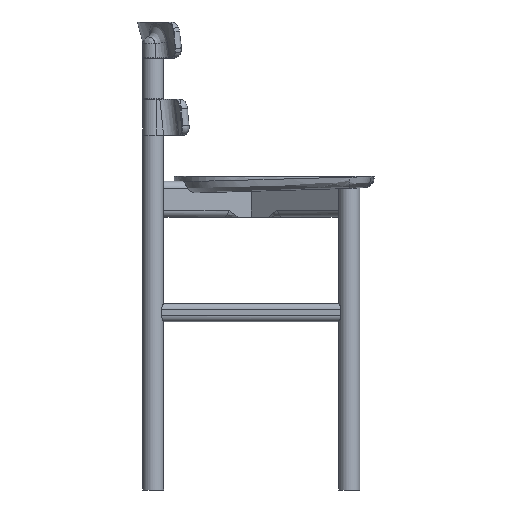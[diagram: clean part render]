
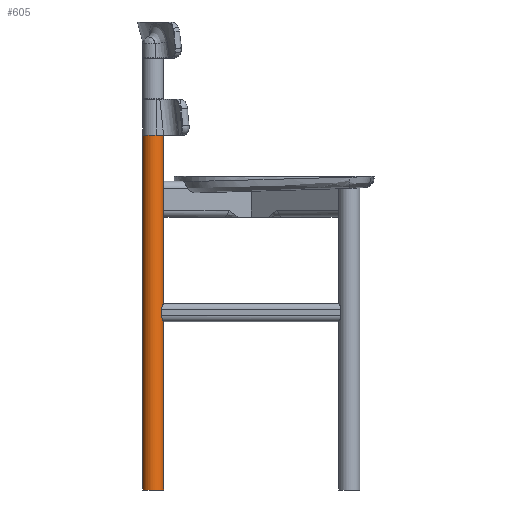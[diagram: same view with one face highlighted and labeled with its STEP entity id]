
A CAD part, left-side view. The second image highlights one B-rep face of the part: STEP entity #605.
In plain terms, the highlighted cylindrical face has radius 21.5 mm (diameter 43 mm), a partial arc.
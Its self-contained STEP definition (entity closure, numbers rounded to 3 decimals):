
#175=TRIMMED_CURVE($,#366,(#5621),(#5622),.T.,.CARTESIAN.);
#177=TRIMMED_CURVE($,#368,(#5627),(#5628),.T.,.CARTESIAN.);
#366=CIRCLE('',#4365,21.5);
#368=CIRCLE('',#4367,21.5);
#605=ADVANCED_FACE('',(#883),#4123,.T.);
#883=FACE_OUTER_BOUND('',#1161,.T.);
#1161=EDGE_LOOP('',(#1521,#1522,#1523,#1524));
#1521=ORIENTED_EDGE('',*,*,#2721,.F.);
#1522=ORIENTED_EDGE('',*,*,#2720,.F.);
#1523=ORIENTED_EDGE('',*,*,#2722,.T.);
#1524=ORIENTED_EDGE('',*,*,#2718,.T.);
#2718=EDGE_CURVE('',#3763,#3762,#175,.T.);
#2720=EDGE_CURVE('',#3765,#3764,#177,.T.);
#2721=EDGE_CURVE('',#3764,#3762,#3332,.T.);
#2722=EDGE_CURVE('',#3765,#3763,#3333,.T.);
#3332=B_SPLINE_CURVE_WITH_KNOTS('',1,(#5629,#5630),.UNSPECIFIED.,.F.,.F.,
(2,2),(0.,735.),.UNSPECIFIED.);
#3333=B_SPLINE_CURVE_WITH_KNOTS('',1,(#5631,#5632),.UNSPECIFIED.,.F.,.F.,
(2,2),(0.,735.),.UNSPECIFIED.);
#3762=VERTEX_POINT('',#5613);
#3763=VERTEX_POINT('',#5614);
#3764=VERTEX_POINT('',#5615);
#3765=VERTEX_POINT('',#5616);
#4123=CYLINDRICAL_SURFACE('',#4362,21.5);
#4362=AXIS2_PLACEMENT_3D('',#5611,#4695,$);
#4365=AXIS2_PLACEMENT_3D($,#5620,#4699,#4700);
#4367=AXIS2_PLACEMENT_3D($,#5626,#4703,#4704);
#4695=DIRECTION('',(0.,0.,-1.));
#4699=DIRECTION('',(0.,0.,1.));
#4700=DIRECTION('',(0.,1.,0.));
#4703=DIRECTION('',(0.,0.,1.));
#4704=DIRECTION('',(0.,1.,0.));
#5611=CARTESIAN_POINT('',(-168.902,478.797,367.5));
#5613=CARTESIAN_POINT('',(-168.902,457.297,0.));
#5614=CARTESIAN_POINT('',(-168.902,500.297,0.));
#5615=CARTESIAN_POINT('',(-168.902,457.297,735.));
#5616=CARTESIAN_POINT('',(-168.902,500.297,735.));
#5620=CARTESIAN_POINT('',(-168.902,478.797,0.));
#5621=CARTESIAN_POINT('',(-168.902,500.297,0.));
#5622=CARTESIAN_POINT('',(-168.902,457.297,0.));
#5626=CARTESIAN_POINT('',(-168.902,478.797,735.));
#5627=CARTESIAN_POINT('',(-168.902,500.297,735.));
#5628=CARTESIAN_POINT('',(-168.902,457.297,735.));
#5629=CARTESIAN_POINT('',(-168.902,457.297,735.));
#5630=CARTESIAN_POINT('',(-168.902,457.297,0.));
#5631=CARTESIAN_POINT('',(-168.902,500.297,735.));
#5632=CARTESIAN_POINT('',(-168.902,500.297,0.));
